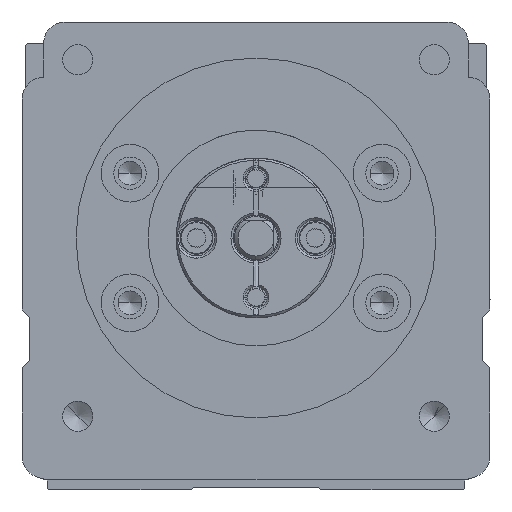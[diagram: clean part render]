
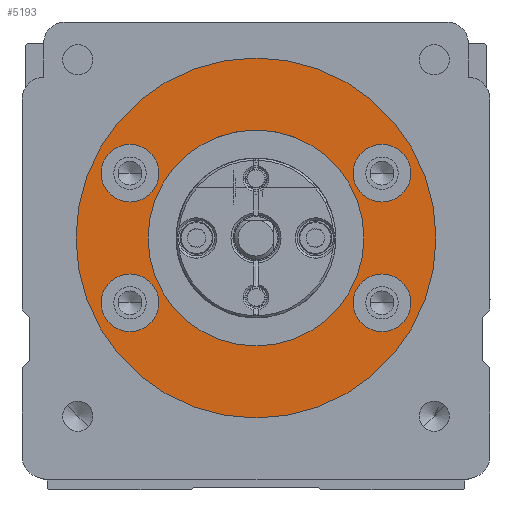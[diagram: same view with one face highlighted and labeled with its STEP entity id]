
A CAD part, front view. The second image highlights one B-rep face of the part: STEP entity #5193.
In plain terms, the highlighted planar face has unit normal (0, -1, 0).
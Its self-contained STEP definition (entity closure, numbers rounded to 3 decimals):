
#5193=ADVANCED_FACE('',(#11430,#11431,#11432,#11433,#11434,#11435),#11436,.F.);
#11430=FACE_BOUND('',#19912,.T.);
#11431=FACE_BOUND('',#19913,.T.);
#11432=FACE_BOUND('',#19914,.T.);
#11433=FACE_BOUND('',#19915,.T.);
#11434=FACE_BOUND('',#19916,.T.);
#11435=FACE_OUTER_BOUND('',#19917,.T.);
#11436=PLANE('',#19918);
#19912=EDGE_LOOP('',(#34156,#34157));
#19913=EDGE_LOOP('',(#34158,#34159));
#19914=EDGE_LOOP('',(#34160,#34161));
#19915=EDGE_LOOP('',(#34162,#34163));
#19916=EDGE_LOOP('',(#34164,#34165));
#19917=EDGE_LOOP('',(#34166,#34167));
#19918=AXIS2_PLACEMENT_3D('',#34168,#34169,#34170);
#34156=ORIENTED_EDGE('',*,*,#49817,.T.);
#34157=ORIENTED_EDGE('',*,*,#46819,.T.);
#34158=ORIENTED_EDGE('',*,*,#51571,.T.);
#34159=ORIENTED_EDGE('',*,*,#51572,.T.);
#34160=ORIENTED_EDGE('',*,*,#47364,.T.);
#34161=ORIENTED_EDGE('',*,*,#48543,.T.);
#34162=ORIENTED_EDGE('',*,*,#48291,.T.);
#34163=ORIENTED_EDGE('',*,*,#51573,.T.);
#34164=ORIENTED_EDGE('',*,*,#51574,.T.);
#34165=ORIENTED_EDGE('',*,*,#51575,.T.);
#34166=ORIENTED_EDGE('',*,*,#51576,.T.);
#34167=ORIENTED_EDGE('',*,*,#51577,.T.);
#34168=CARTESIAN_POINT('',(300.,-35.,0.));
#34169=DIRECTION('',(0.,1.0,0.));
#34170=DIRECTION('',(1.0,0.,0.));
#46819=EDGE_CURVE('',#55802,#55806,#55808,.T.);
#47364=EDGE_CURVE('',#56777,#56775,#56778,.T.);
#48291=EDGE_CURVE('',#58391,#58389,#58392,.T.);
#48543=EDGE_CURVE('',#56775,#56777,#58810,.T.);
#49817=EDGE_CURVE('',#55806,#55802,#60834,.T.);
#51571=EDGE_CURVE('',#63438,#63439,#63440,.T.);
#51572=EDGE_CURVE('',#63439,#63438,#63441,.T.);
#51573=EDGE_CURVE('',#58389,#58391,#63442,.T.);
#51574=EDGE_CURVE('',#63443,#63444,#63445,.T.);
#51575=EDGE_CURVE('',#63444,#63443,#63446,.T.);
#51576=EDGE_CURVE('',#63447,#63448,#63449,.T.);
#51577=EDGE_CURVE('',#63448,#63447,#63450,.T.);
#55802=VERTEX_POINT('',#68814);
#55806=VERTEX_POINT('',#68819);
#55808=CIRCLE('',#68822,4.0);
#56775=VERTEX_POINT('',#70194);
#56777=VERTEX_POINT('',#70197);
#56778=CIRCLE('',#70198,4.0);
#58389=VERTEX_POINT('',#72472);
#58391=VERTEX_POINT('',#72475);
#58392=CIRCLE('',#72476,4.0);
#58810=CIRCLE('',#73102,4.0);
#60834=CIRCLE('',#76014,4.0);
#63438=VERTEX_POINT('',#79793);
#63439=VERTEX_POINT('',#79794);
#63440=CIRCLE('',#79795,4.0);
#63441=CIRCLE('',#79796,4.0);
#63442=CIRCLE('',#79797,4.0);
#63443=VERTEX_POINT('',#79798);
#63444=VERTEX_POINT('',#79799);
#63445=CIRCLE('',#79800,15.0);
#63446=CIRCLE('',#79801,15.0);
#63447=VERTEX_POINT('',#79802);
#63448=VERTEX_POINT('',#79803);
#63449=CIRCLE('',#79804,25.0);
#63450=CIRCLE('',#79805,25.0);
#68814=CARTESIAN_POINT('',(278.5,-35.,-9.));
#68819=CARTESIAN_POINT('',(286.5,-35.,-9.));
#68822=AXIS2_PLACEMENT_3D('',#86171,#86172,#86173);
#70194=CARTESIAN_POINT('',(278.5,-35.,9.));
#70197=CARTESIAN_POINT('',(286.5,-35.,9.));
#70198=AXIS2_PLACEMENT_3D('',#86860,#86861,#86862);
#72472=CARTESIAN_POINT('',(313.5,-35.,9.));
#72475=CARTESIAN_POINT('',(321.5,-35.,9.));
#72476=AXIS2_PLACEMENT_3D('',#88081,#88082,#88083);
#73102=AXIS2_PLACEMENT_3D('',#88436,#88437,#88438);
#76014=AXIS2_PLACEMENT_3D('',#90112,#90113,#90114);
#79793=CARTESIAN_POINT('',(321.5,-35.,-9.));
#79794=CARTESIAN_POINT('',(313.5,-35.,-9.));
#79795=AXIS2_PLACEMENT_3D('',#92422,#92423,#92424);
#79796=AXIS2_PLACEMENT_3D('',#92425,#92426,#92427);
#79797=AXIS2_PLACEMENT_3D('',#92428,#92429,#92430);
#79798=CARTESIAN_POINT('',(285.,-35.,0.));
#79799=CARTESIAN_POINT('',(315.,-35.,0.));
#79800=AXIS2_PLACEMENT_3D('',#92431,#92432,#92433);
#79801=AXIS2_PLACEMENT_3D('',#92434,#92435,#92436);
#79802=CARTESIAN_POINT('',(325.,-35.,0.));
#79803=CARTESIAN_POINT('',(275.,-35.,0.));
#79804=AXIS2_PLACEMENT_3D('',#92437,#92438,#92439);
#79805=AXIS2_PLACEMENT_3D('',#92440,#92441,#92442);
#86171=CARTESIAN_POINT('',(282.5,-35.,-9.));
#86172=DIRECTION('',(0.,1.0,0.));
#86173=DIRECTION('',(-1.0,0.,0.));
#86860=CARTESIAN_POINT('',(282.5,-35.,9.));
#86861=DIRECTION('',(0.,1.0,0.));
#86862=DIRECTION('',(-1.0,0.,0.));
#88081=CARTESIAN_POINT('',(317.5,-35.,9.));
#88082=DIRECTION('',(0.,1.0,0.));
#88083=DIRECTION('',(-1.0,0.,0.));
#88436=CARTESIAN_POINT('',(282.5,-35.,9.));
#88437=DIRECTION('',(0.,1.0,0.));
#88438=DIRECTION('',(-1.0,0.,0.));
#90112=CARTESIAN_POINT('',(282.5,-35.,-9.));
#90113=DIRECTION('',(0.,1.0,0.));
#90114=DIRECTION('',(-1.0,0.,0.));
#92422=CARTESIAN_POINT('',(317.5,-35.,-9.));
#92423=DIRECTION('',(0.,1.0,0.));
#92424=DIRECTION('',(-1.0,0.,0.));
#92425=CARTESIAN_POINT('',(317.5,-35.,-9.));
#92426=DIRECTION('',(0.,1.0,0.));
#92427=DIRECTION('',(-1.0,0.,0.));
#92428=CARTESIAN_POINT('',(317.5,-35.,9.));
#92429=DIRECTION('',(0.,1.0,0.));
#92430=DIRECTION('',(-1.0,0.,0.));
#92431=CARTESIAN_POINT('',(300.,-35.,0.));
#92432=DIRECTION('',(0.,1.0,0.));
#92433=DIRECTION('',(1.0,0.,0.));
#92434=CARTESIAN_POINT('',(300.,-35.,0.));
#92435=DIRECTION('',(0.,1.0,0.));
#92436=DIRECTION('',(1.0,0.,0.));
#92437=CARTESIAN_POINT('',(300.,-35.,0.));
#92438=DIRECTION('',(0.,-1.0,0.));
#92439=DIRECTION('',(1.0,0.,0.));
#92440=CARTESIAN_POINT('',(300.,-35.,0.));
#92441=DIRECTION('',(0.,-1.0,0.));
#92442=DIRECTION('',(1.0,0.,0.));
